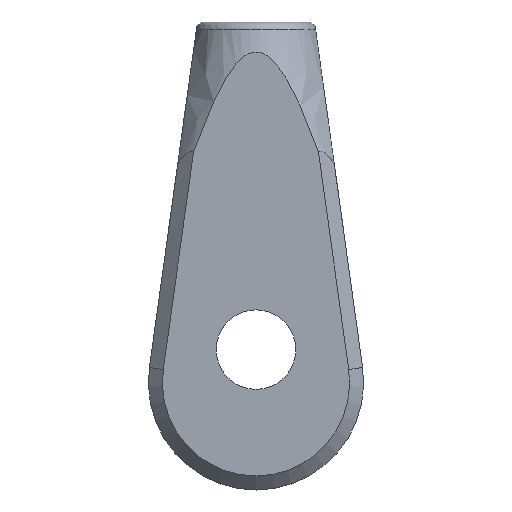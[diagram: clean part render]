
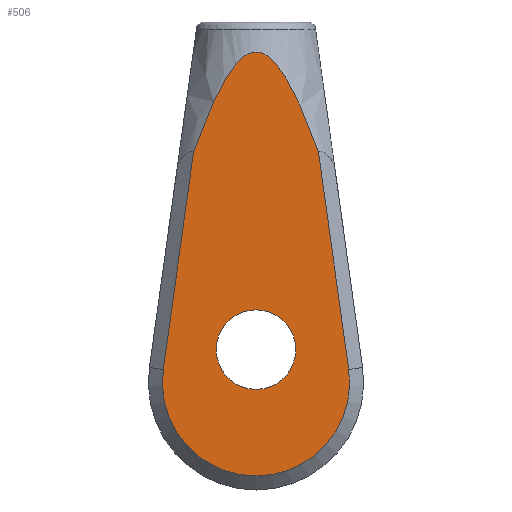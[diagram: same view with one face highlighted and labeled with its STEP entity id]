
A CAD part, front view. The second image highlights one B-rep face of the part: STEP entity #506.
In plain terms, the highlighted planar face has unit normal (0, -1, 0).
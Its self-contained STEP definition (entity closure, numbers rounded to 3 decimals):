
#22 = PLANE ( 'NONE',  #668 ) ;
#35 = CARTESIAN_POINT ( 'NONE',  ( 8.774, -14.1, -8.353 ) ) ;
#37 = CARTESIAN_POINT ( 'NONE',  ( 32.309, -14.1, -74.242 ) ) ;
#40 = CARTESIAN_POINT ( 'NONE',  ( 12.006, -14.1, -6.442 ) ) ;
#51 = DIRECTION ( 'NONE',  ( -0.138, 0., -0.99 ) ) ;
#109 = FACE_BOUND ( 'NONE', #1187, .T. ) ;
#172 = EDGE_LOOP ( 'NONE', ( #1529, #434, #849, #275 ) ) ;
#183 = CARTESIAN_POINT ( 'NONE',  ( 9.368, -14.1, -7.79 ) ) ;
#189 = CARTESIAN_POINT ( 'NONE',  ( 13.097, -14.1, -6.458 ) ) ;
#198 = CARTESIAN_POINT ( 'NONE',  ( -7.309, -14.1, -74.242 ) ) ;
#213 = VERTEX_POINT ( 'NONE', #1695 ) ;
#216 = DIRECTION ( 'NONE',  ( 0., 0., 1. ) ) ;
#227 = B_SPLINE_CURVE_WITH_KNOTS ( 'NONE', 3,
 ( #1334, #1757, #1037, #478, #1057, #1481, #319, #618, #472, #1464, #765, #1613, #1749, #913, #35, #1048, #183, #1192, #331, #1325, #626, #1475, #1620, #40, #919, #1200, #189, #337, #485, #1627, #637, #1179, #1490, #1283, #1597, #1044, #620, #607, #1743, #1220, #1455, #601, #368, #1652, #1783, #1070 ),
 .UNSPECIFIED., .F., .F.,
 ( 4, 2, 2, 2, 2, 2, 2, 2, 2, 2, 2, 2, 2, 2, 2, 2, 2, 2, 2, 2, 2, 2, 4 ),
 ( 0.239, 0.245, 0.252, 0.255, 0.257, 0.258, 0.26, 0.261, 0.262, 0.262, 0.263, 0.264, 0.265, 0.266, 0.267, 0.267, 0.268, 0.27, 0.271, 0.275, 0.278, 0.284, 0.291 ),
 .UNSPECIFIED. ) ;
#244 = VECTOR ( 'NONE', #583, 1000. ) ;
#275 = ORIENTED_EDGE ( 'NONE', *, *, #1436, .T. ) ;
#319 = CARTESIAN_POINT ( 'NONE',  ( 5.092, -14.1, -13.718 ) ) ;
#331 = CARTESIAN_POINT ( 'NONE',  ( 10.013, -14.1, -7.283 ) ) ;
#337 = CARTESIAN_POINT ( 'NONE',  ( 13.628, -14.1, -6.588 ) ) ;
#344 = EDGE_CURVE ( 'NONE', #1029, #213, #976, .T. ) ;
#368 = CARTESIAN_POINT ( 'NONE',  ( 22.706, -14.1, -19.631 ) ) ;
#378 = CARTESIAN_POINT ( 'NONE',  ( 12.5, -14.1, -70. ) ) ;
#379 = EDGE_CURVE ( 'NONE', #585, #718, #629, .T. ) ;
#434 = ORIENTED_EDGE ( 'NONE', *, *, #965, .T. ) ;
#468 = VERTEX_POINT ( 'NONE', #784 ) ;
#472 = CARTESIAN_POINT ( 'NONE',  ( 6.178, -14.1, -11.832 ) ) ;
#478 = CARTESIAN_POINT ( 'NONE',  ( 2.303, -14.1, -19.609 ) ) ;
#485 = CARTESIAN_POINT ( 'NONE',  ( 13.889, -14.1, -6.683 ) ) ;
#506 = ADVANCED_FACE ( 'NONE', ( #109, #1586 ), #22, .F. ) ;
#520 = DIRECTION ( 'NONE',  ( 0., 0., 1. ) ) ;
#538 = CARTESIAN_POINT ( 'NONE',  ( 12.5, -14.1, -77. ) ) ;
#575 = ORIENTED_EDGE ( 'NONE', *, *, #1023, .T. ) ;
#583 = DIRECTION ( 'NONE',  ( -0.138, 0., 0.99 ) ) ;
#585 = VERTEX_POINT ( 'NONE', #938 ) ;
#597 = CARTESIAN_POINT ( 'NONE',  ( 32.309, -14.1, -74.242 ) ) ;
#601 = CARTESIAN_POINT ( 'NONE',  ( 21.849, -14.1, -17.642 ) ) ;
#607 = CARTESIAN_POINT ( 'NONE',  ( 18.313, -14.1, -10.988 ) ) ;
#618 = CARTESIAN_POINT ( 'NONE',  ( 5.899, -14.1, -12.3 ) ) ;
#620 = CARTESIAN_POINT ( 'NONE',  ( 17.359, -14.1, -9.669 ) ) ;
#625 = CIRCLE ( 'NONE', #802, 8.5 ) ;
#626 = CARTESIAN_POINT ( 'NONE',  ( 10.718, -14.1, -6.859 ) ) ;
#629 = CIRCLE ( 'NONE', #1357, 20. ) ;
#637 = CARTESIAN_POINT ( 'NONE',  ( 14.62, -14.1, -7.045 ) ) ;
#668 = AXIS2_PLACEMENT_3D ( 'NONE', #1142, #1568, #1615 ) ;
#718 = VERTEX_POINT ( 'NONE', #37 ) ;
#765 = CARTESIAN_POINT ( 'NONE',  ( 7.066, -14.1, -10.459 ) ) ;
#784 = CARTESIAN_POINT ( 'NONE',  ( -0.824, -14.1, -27.674 ) ) ;
#789 = AXIS2_PLACEMENT_3D ( 'NONE', #378, #1371, #520 ) ;
#802 = AXIS2_PLACEMENT_3D ( 'NONE', #1170, #1339, #1601 ) ;
#845 = CARTESIAN_POINT ( 'NONE',  ( 25.824, -14.1, -27.674 ) ) ;
#849 = ORIENTED_EDGE ( 'NONE', *, *, #981, .F. ) ;
#913 = CARTESIAN_POINT ( 'NONE',  ( 8.587, -14.1, -8.55 ) ) ;
#919 = CARTESIAN_POINT ( 'NONE',  ( 12.283, -14.1, -6.413 ) ) ;
#938 = CARTESIAN_POINT ( 'NONE',  ( -7.309, -14.1, -74.242 ) ) ;
#965 = EDGE_CURVE ( 'NONE', #718, #1315, #1752, .T. ) ;
#976 = CIRCLE ( 'NONE', #789, 8.5 ) ;
#981 = EDGE_CURVE ( 'NONE', #468, #1315, #227, .T. ) ;
#1023 = EDGE_CURVE ( 'NONE', #213, #1029, #625, .T. ) ;
#1029 = VERTEX_POINT ( 'NONE', #1432 ) ;
#1037 = CARTESIAN_POINT ( 'NONE',  ( 0.678, -14.1, -23.62 ) ) ;
#1044 = CARTESIAN_POINT ( 'NONE',  ( 17.021, -14.1, -9.238 ) ) ;
#1048 = CARTESIAN_POINT ( 'NONE',  ( 9.164, -14.1, -7.973 ) ) ;
#1057 = CARTESIAN_POINT ( 'NONE',  ( 3.16, -14.1, -17.62 ) ) ;
#1070 = CARTESIAN_POINT ( 'NONE',  ( 25.824, -14.1, -27.674 ) ) ;
#1142 = CARTESIAN_POINT ( 'NONE',  ( 12.5, -14.1, -77. ) ) ;
#1170 = CARTESIAN_POINT ( 'NONE',  ( 12.5, -14.1, -70. ) ) ;
#1179 = CARTESIAN_POINT ( 'NONE',  ( 15.076, -14.1, -7.346 ) ) ;
#1187 = EDGE_LOOP ( 'NONE', ( #575, #1282 ) ) ;
#1192 = CARTESIAN_POINT ( 'NONE',  ( 9.793, -14.1, -7.444 ) ) ;
#1200 = CARTESIAN_POINT ( 'NONE',  ( 12.828, -14.1, -6.422 ) ) ;
#1220 = CARTESIAN_POINT ( 'NONE',  ( 19.94, -14.1, -13.778 ) ) ;
#1229 = DIRECTION ( 'NONE',  ( 0., -1., 0. ) ) ;
#1282 = ORIENTED_EDGE ( 'NONE', *, *, #344, .T. ) ;
#1283 = CARTESIAN_POINT ( 'NONE',  ( 15.922, -14.1, -8.036 ) ) ;
#1305 = VECTOR ( 'NONE', #51, 1000. ) ;
#1315 = VERTEX_POINT ( 'NONE', #845 ) ;
#1325 = CARTESIAN_POINT ( 'NONE',  ( 10.474, -14.1, -6.991 ) ) ;
#1334 = CARTESIAN_POINT ( 'NONE',  ( -0.824, -14.1, -27.674 ) ) ;
#1339 = DIRECTION ( 'NONE',  ( 0., 1., 0. ) ) ;
#1357 = AXIS2_PLACEMENT_3D ( 'NONE', #538, #1229, #216 ) ;
#1371 = DIRECTION ( 'NONE',  ( 0., 1., 0. ) ) ;
#1432 = CARTESIAN_POINT ( 'NONE',  ( 12.5, -14.1, -61.5 ) ) ;
#1436 = EDGE_CURVE ( 'NONE', #468, #585, #1701, .T. ) ;
#1455 = CARTESIAN_POINT ( 'NONE',  ( 20.434, -14.1, -14.735 ) ) ;
#1464 = CARTESIAN_POINT ( 'NONE',  ( 6.761, -14.1, -10.913 ) ) ;
#1475 = CARTESIAN_POINT ( 'NONE',  ( 11.218, -14.1, -6.642 ) ) ;
#1481 = CARTESIAN_POINT ( 'NONE',  ( 4.591, -14.1, -14.686 ) ) ;
#1490 = CARTESIAN_POINT ( 'NONE',  ( 15.296, -14.1, -7.512 ) ) ;
#1529 = ORIENTED_EDGE ( 'NONE', *, *, #379, .T. ) ;
#1568 = DIRECTION ( 'NONE',  ( 0., 1., 0. ) ) ;
#1586 = FACE_OUTER_BOUND ( 'NONE', #172, .T. ) ;
#1597 = CARTESIAN_POINT ( 'NONE',  ( 16.303, -14.1, -8.422 ) ) ;
#1601 = DIRECTION ( 'NONE',  ( 0., 0., 1. ) ) ;
#1613 = CARTESIAN_POINT ( 'NONE',  ( 7.708, -14.1, -9.582 ) ) ;
#1615 = DIRECTION ( 'NONE',  ( 0., 0., 1. ) ) ;
#1620 = CARTESIAN_POINT ( 'NONE',  ( 11.475, -14.1, -6.556 ) ) ;
#1627 = CARTESIAN_POINT ( 'NONE',  ( 14.383, -14.1, -6.911 ) ) ;
#1652 = CARTESIAN_POINT ( 'NONE',  ( 24.326, -14.1, -23.632 ) ) ;
#1695 = CARTESIAN_POINT ( 'NONE',  ( 12.5, -14.1, -78.5 ) ) ;
#1701 = LINE ( 'NONE', #198, #1305 ) ;
#1743 = CARTESIAN_POINT ( 'NONE',  ( 18.878, -14.1, -11.905 ) ) ;
#1749 = CARTESIAN_POINT ( 'NONE',  ( 8.045, -14.1, -9.156 ) ) ;
#1752 = LINE ( 'NONE', #597, #244 ) ;
#1757 = CARTESIAN_POINT ( 'NONE',  ( -0.087, -14.1, -25.642 ) ) ;
#1783 = CARTESIAN_POINT ( 'NONE',  ( 25.089, -14.1, -25.648 ) ) ;
